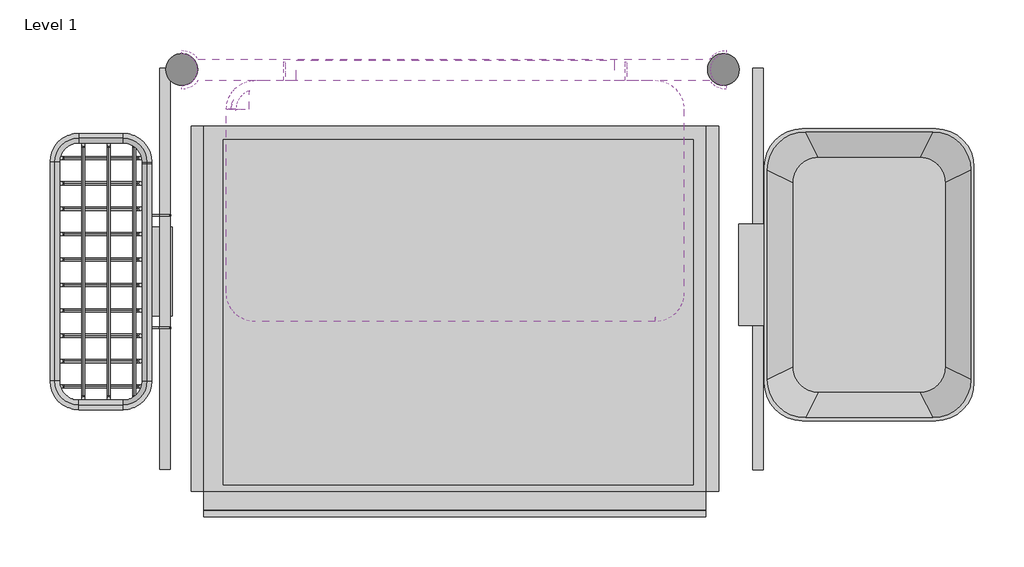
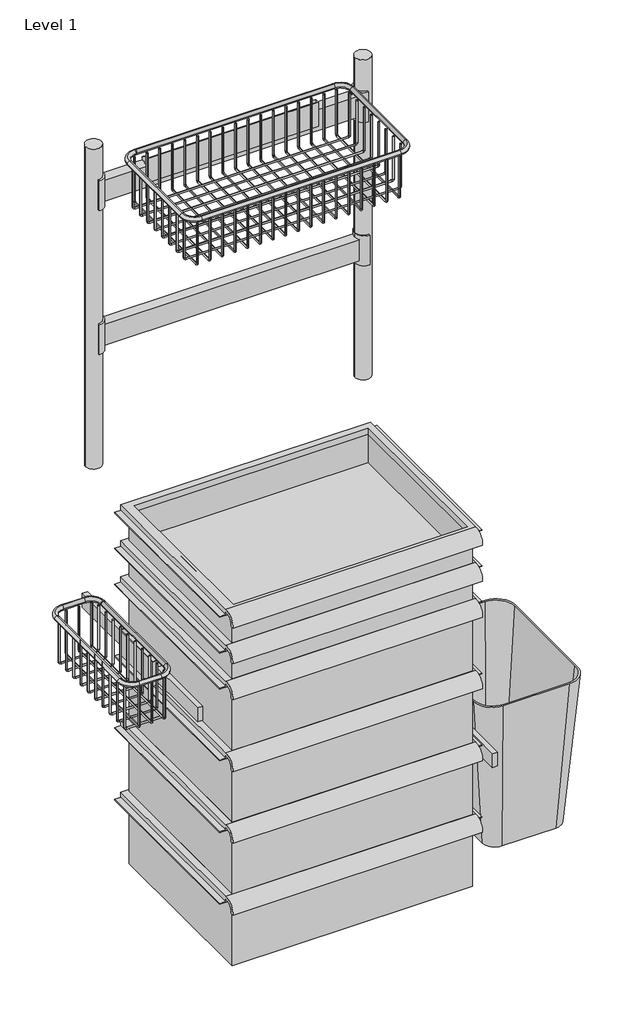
# One storey, incomplete: 13 furniture elements.
"""IFC4 building model written with IfcOpenShell, lengths in millimetres."""

from ifc_helpers import new_model, si_unit, origin, place, context, project, spatial, transform, mapped, element, save
from components import furniture_b57faadb, furniture_c484342d, furniture_28e7d052, furniture_4659394c, furniture_b3912cd8, furniture_54a6ac53, furniture_d1ba1244, furniture_ef13b4ed, furniture_1b10ca9a, furniture_615b3003, furniture_0ba2adaa, furniture_c79063a3, furniture_beea0197, furniture_a5205e5c, furniture_b27a1659, furniture_63bd0a72, furniture_5e9628dd

model = new_model("IFC4")

# Units and contexts
model_context = context("Model", 3, world=origin())
ifc_project = project(units=[si_unit("LENGTHUNIT", "METRE", prefix="MILLI")], contexts=[model_context])

# Site, building, storey
site = spatial("IfcSite", under=ifc_project)
building = spatial("IfcBuilding", under=site)
storey = spatial("IfcBuildingStorey", under=building, Name="Level 1", Elevation=0.0)

# Furniture
placement = place(None, origin())
furniture_shape = furniture_b57faadb(model_context)
element("IfcFurniture", 1, ObjectType="HermanMiller_Carts_CT501_Drawer : 3\"H x 15\"D x 20\"W", at=placement, inside=storey, context=model_context, shape_type="MappedRepresentation", body=[
    mapped(furniture_shape, transform((347.0125824, -346.8234177, 0.0), x_axis=(1.0, 0.0, 0.0), y_axis=(0.0, 1.0, 0.0), z_axis=(0.0, 0.0, 1.0))),
])
furniture_2_shape = furniture_c484342d(model_context)
element("IfcFurniture", 2, ObjectType="HermanMiller_Carts_CT501_Drawer : 3\"H x 15\"D x 20\"W", at=placement, inside=storey, context=model_context, shape_type="MappedRepresentation", body=[
    mapped(furniture_2_shape, transform((347.0125824, -346.8234177, 0.0), x_axis=(1.0, 0.0, 0.0), y_axis=(0.0, 1.0, 0.0), z_axis=(0.0, 0.0, 1.0))),
])
furniture_3_shape = furniture_28e7d052(model_context)
element("IfcFurniture", 3, ObjectType="HermanMiller_Carts_CT501_Drawer : 6\"H x 15\"D x 20\"W", at=placement, inside=storey, context=model_context, shape_type="MappedRepresentation", body=[
    mapped(furniture_3_shape, transform((347.0125824, -346.8234177, 0.0), x_axis=(1.0, 0.0, 0.0), y_axis=(0.0, 1.0, 0.0), z_axis=(0.0, 0.0, 1.0))),
])
furniture_4_shape = furniture_4659394c(model_context)
element("IfcFurniture", 4, ObjectType="HermanMiller_Carts_CT501_Drawer : 6\"H x 15\"D x 20\"W", at=placement, inside=storey, context=model_context, shape_type="MappedRepresentation", body=[
    mapped(furniture_4_shape, transform((347.0125824, -346.8234177, 0.0), x_axis=(1.0, 0.0, 0.0), y_axis=(0.0, 1.0, 0.0), z_axis=(0.0, 0.0, 1.0))),
])
furniture_5_shape = furniture_b3912cd8(model_context)
element("IfcFurniture", 5, ObjectType="HermanMiller_Carts_CT501_Drawer : 6\"H x 15\"D x 20\"W", at=placement, inside=storey, context=model_context, shape_type="MappedRepresentation", body=[
    mapped(furniture_5_shape, transform((347.0125824, -346.8234177, 0.0), x_axis=(1.0, 0.0, 0.0), y_axis=(0.0, 1.0, 0.0), z_axis=(0.0, 0.0, 1.0))),
])
furniture_6_shape = furniture_54a6ac53(model_context)
element("IfcFurniture", 6, ObjectType="HermanMiller_Carts_CT501_Drawer : 6\"H x 15\"D x 20\"W", at=placement, inside=storey, context=model_context, shape_type="MappedRepresentation", body=[
    mapped(furniture_6_shape, transform((347.0125824, -346.8234177, 0.0), x_axis=(1.0, 0.0, 0.0), y_axis=(0.0, 1.0, 0.0), z_axis=(0.0, 0.0, 1.0))),
])
furniture_7_shape = furniture_d1ba1244(model_context)
furniture_8_shape = furniture_ef13b4ed(model_context)
element("IfcFurniture", 7, ObjectType="HermanMiller_Carts_CT720_SupplyBasket : 5\"H x 5\"D x 12\"W Supply Basket", at=placement, inside=storey, context=model_context, shape_type="MappedRepresentation", body=[
    mapped(furniture_7_shape, transform((47.3168234, -297.0420635, 0.0), x_axis=(1.1019615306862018e-05, -0.9999999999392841, 0.0), y_axis=(0.9999999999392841, 1.1019615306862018e-05, 0.0), z_axis=(0.0, 0.0, 1.0))),
    mapped(furniture_8_shape, transform((47.3168234, -297.0420635, 0.0), x_axis=(1.1019615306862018e-05, -0.9999999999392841, 0.0), y_axis=(0.9999999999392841, 1.1019615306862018e-05, 0.0), z_axis=(0.0, 0.0, 1.0))),
])
furniture_9_shape = furniture_1b10ca9a(model_context)
furniture_10_shape = furniture_615b3003(model_context)
furniture_11_shape = furniture_0ba2adaa(model_context)
furniture_12_shape = furniture_c79063a3(model_context)
element("IfcFurniture", 8, ObjectType="HermanMiller_Carts_CT720_SupplyBasket : 5\"H x 9\"D x 18\"W Supply Basket", at=placement, inside=storey, context=model_context, shape_type="MappedRepresentation", body=[
    mapped(furniture_9_shape, transform((360.1967023, -185.4460253, 0.0), x_axis=(1.0, 0.0, 0.0), y_axis=(0.0, 1.0, 0.0), z_axis=(0.0, 0.0, 1.0))),
    mapped(furniture_10_shape, transform((360.1967023, -185.4460253, 0.0), x_axis=(1.0, 0.0, 0.0), y_axis=(0.0, 1.0, 0.0), z_axis=(0.0, 0.0, 1.0))),
    mapped(furniture_11_shape, transform((360.1967023, -185.4460253, 0.0), x_axis=(1.0, 0.0, 0.0), y_axis=(0.0, 1.0, 0.0), z_axis=(0.0, 0.0, 1.0))),
    mapped(furniture_12_shape, transform((360.1967023, -185.4460253, 0.0), x_axis=(1.0, 0.0, 0.0), y_axis=(0.0, 1.0, 0.0), z_axis=(0.0, 0.0, 1.0))),
])
furniture_13_shape = furniture_beea0197(model_context)
element("IfcFurniture", 9, ObjectType="HermanMiller_Carts_CT728_WastebasketAndHolder : 12H x 8D x 11W", at=placement, inside=storey, context=model_context, shape_type="MappedRepresentation", body=[
    mapped(furniture_13_shape, transform((755.0887664, -154.1466377, 0.0), x_axis=(1.0, 0.0, 0.0), y_axis=(0.0, 1.0, 0.0), z_axis=(0.0, 0.0, 1.0))),
])
furniture_14_shape = furniture_a5205e5c(model_context)
element("IfcFurniture", 10, ObjectType="HermanMiller_Carts_CT790_Above-CartRailSingle-WideCart : Rail For Carts 28\"W", at=placement, inside=storey, context=model_context, shape_type="MappedRepresentation", body=[
    mapped(furniture_14_shape, transform((357.472514, -95.0359959, 0.0), x_axis=(1.0, 0.0, 0.0), y_axis=(0.0, 1.0, 0.0), z_axis=(0.0, 0.0, 1.0))),
])
furniture_15_shape = furniture_b27a1659(model_context)
element("IfcFurniture", 11, ObjectType="HermanMiller_Carts_CT790_Above-CartRailSingle-WideCart : Add-On Rail For Carts 28\"W", at=placement, inside=storey, context=model_context, shape_type="MappedRepresentation", body=[
    mapped(furniture_15_shape, transform((358.832684, -95.3323821, 0.0), x_axis=(1.0, 0.0, 0.0), y_axis=(0.0, 1.0, 0.0), z_axis=(0.0, 0.0, 1.0))),
])
furniture_16_shape = furniture_63bd0a72(model_context)
element("IfcFurniture", 12, ObjectType="HermanMiller_Carts_CT782_AccessoryRailSide : 15\"W Left Sect 4", at=placement, inside=storey, context=model_context, shape_type="MappedRepresentation", body=[
    mapped(furniture_16_shape, transform((70.187389, -294.3089177, 0.0), x_axis=(1.0, 0.0, 0.0), y_axis=(0.0, 1.0, 0.0), z_axis=(0.0, 0.0, 1.0))),
])
furniture_17_shape = furniture_5e9628dd(model_context)
element("IfcFurniture", 13, ObjectType="HermanMiller_Carts_CT782_AccessoryRailSide : 15\"W Right Sect 2", at=placement, inside=storey, context=model_context, shape_type="MappedRepresentation", body=[
    mapped(furniture_17_shape, transform((662.8218184, -294.3089177, 0.0), x_axis=(1.0, 0.0, 0.0), y_axis=(0.0, 1.0, 0.0), z_axis=(0.0, 0.0, 1.0))),
])

save(model, "model.ifc")
